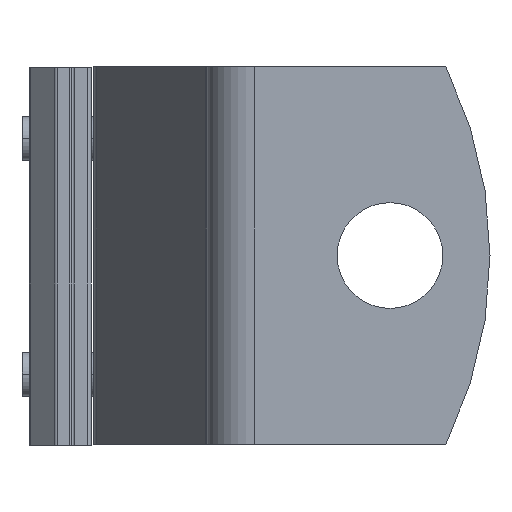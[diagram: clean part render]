
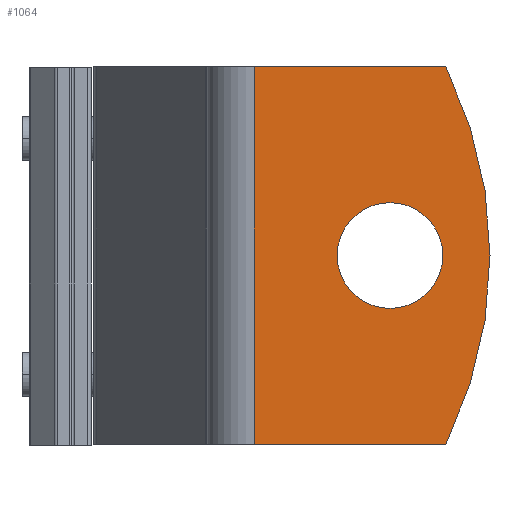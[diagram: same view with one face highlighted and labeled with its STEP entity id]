
A CAD part, front view. The second image highlights one B-rep face of the part: STEP entity #1064.
In plain terms, the highlighted planar face has unit normal (0, -1, 0).
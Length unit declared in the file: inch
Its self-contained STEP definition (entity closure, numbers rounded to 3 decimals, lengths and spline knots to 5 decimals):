
#182=DIRECTION('',(-1.,0.,0.));
#183=VECTOR('',#182,1.01556);
#184=CARTESIAN_POINT('',(1.86585,-4.81,-1.));
#185=LINE('',#184,#183);
#186=DIRECTION('',(1.,0.,0.));
#187=VECTOR('',#186,1.01556);
#188=CARTESIAN_POINT('',(0.85028,-4.81,1.));
#189=LINE('',#188,#187);
#190=CARTESIAN_POINT('',(-0.14972,-4.81,0.));
#191=DIRECTION('',(0.,1.,0.));
#192=DIRECTION('',(0.896,0.,0.444));
#193=AXIS2_PLACEMENT_3D('',#190,#191,#192);
#195=CARTESIAN_POINT('',(-0.14972,-4.81,0.));
#196=DIRECTION('',(0.,1.,0.));
#197=DIRECTION('',(1.,0.,0.));
#198=AXIS2_PLACEMENT_3D('',#195,#196,#197);
#200=CARTESIAN_POINT('',(1.57028,-4.81,0.));
#201=DIRECTION('',(0.,-1.,0.));
#202=DIRECTION('',(1.,0.,0.));
#203=AXIS2_PLACEMENT_3D('',#200,#201,#202);
#205=CARTESIAN_POINT('',(1.57028,-4.81,0.));
#206=DIRECTION('',(0.,-1.,0.));
#207=DIRECTION('',(-1.,0.,0.));
#208=AXIS2_PLACEMENT_3D('',#205,#206,#207);
#214=DIRECTION('',(0.,0.,-1.));
#215=VECTOR('',#214,2.);
#216=CARTESIAN_POINT('',(0.85028,-4.81,1.));
#217=LINE('',#216,#215);
#759=CARTESIAN_POINT('',(0.85028,-4.81,-1.));
#760=VERTEX_POINT('',#759);
#761=CARTESIAN_POINT('',(1.86585,-4.81,-1.));
#762=VERTEX_POINT('',#761);
#775=CARTESIAN_POINT('',(1.86585,-4.81,1.));
#776=VERTEX_POINT('',#775);
#777=CARTESIAN_POINT('',(0.85028,-4.81,1.));
#778=VERTEX_POINT('',#777);
#797=CARTESIAN_POINT('',(2.10028,-4.81,0.));
#798=VERTEX_POINT('',#797);
#799=CARTESIAN_POINT('',(1.85028,-4.81,0.));
#800=CARTESIAN_POINT('',(1.29028,-4.81,0.));
#801=VERTEX_POINT('',#799);
#802=VERTEX_POINT('',#800);
#1044=CARTESIAN_POINT('',(1.47528,-4.81,0.));
#1045=DIRECTION('',(0.,1.,0.));
#1046=DIRECTION('',(-1.,0.,0.));
#1047=AXIS2_PLACEMENT_3D('',#1044,#1045,#1046);
#1048=PLANE('',#1047);
#1049=ORIENTED_EDGE('',*,*,#898,.T.);
#1051=ORIENTED_EDGE('',*,*,#1050,.F.);
#1052=ORIENTED_EDGE('',*,*,#938,.T.);
#1053=ORIENTED_EDGE('',*,*,#1035,.T.);
#1055=ORIENTED_EDGE('',*,*,#1054,.T.);
#1056=EDGE_LOOP('',(#1049,#1051,#1052,#1053,#1055));
#1057=FACE_OUTER_BOUND('',#1056,.F.);
#1059=ORIENTED_EDGE('',*,*,#1058,.T.);
#1061=ORIENTED_EDGE('',*,*,#1060,.T.);
#1062=EDGE_LOOP('',(#1059,#1061));
#1063=FACE_BOUND('',#1062,.F.);
#194=CIRCLE('',#193,2.25);
#199=CIRCLE('',#198,2.25);
#204=CIRCLE('',#203,0.28);
#209=CIRCLE('',#208,0.28);
#898=EDGE_CURVE('',#762,#760,#185,.T.);
#938=EDGE_CURVE('',#778,#776,#189,.T.);
#1035=EDGE_CURVE('',#776,#798,#194,.T.);
#1050=EDGE_CURVE('',#778,#760,#217,.T.);
#1054=EDGE_CURVE('',#798,#762,#199,.T.);
#1058=EDGE_CURVE('',#801,#802,#204,.T.);
#1060=EDGE_CURVE('',#802,#801,#209,.T.);
#1064=ADVANCED_FACE('',(#1057,#1063),#1048,.F.);
